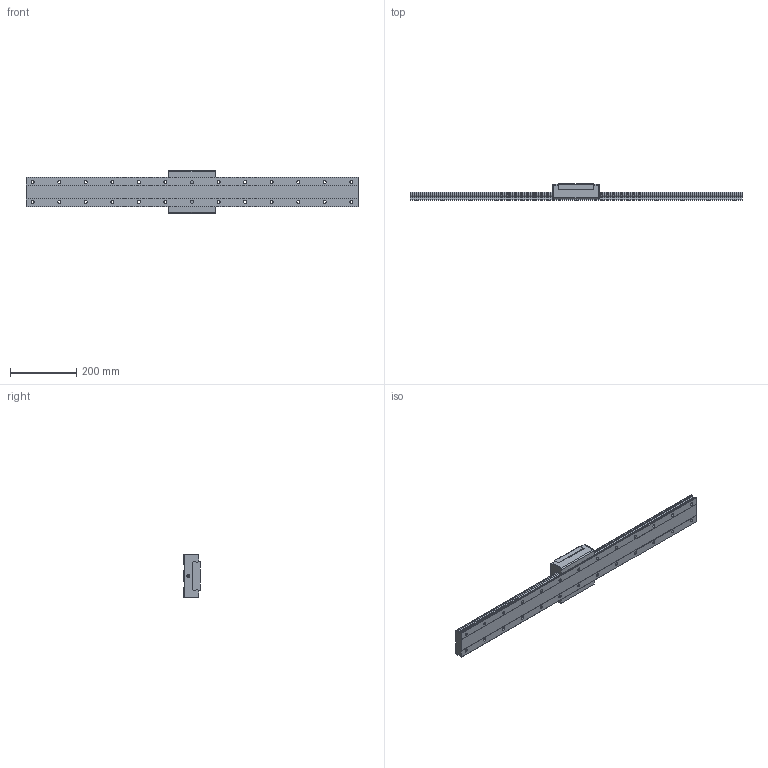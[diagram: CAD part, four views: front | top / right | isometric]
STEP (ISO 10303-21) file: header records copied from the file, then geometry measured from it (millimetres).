
FILE_DESCRIPTION( ( '' ), '1' );
FILE_NAME( 'C:/Users/v3-771-32344/Documents/Website 2016/STEP/SHW50CR1UU1000200429.5000.stp', '2016-11-10T12:46:58', ( '' ), ( '' ), ' ', ' ', ' ' );
FILE_SCHEMA( ( 'CONFIG_CONTROL_DESIGN' ) );
Length unit declared in the file: millimetre
Products named in the file (2): 1; 2
Bounding box: 1000 x 50 x 130 mm (x, y, z)
Volume: 2548008.9 mm3; surface area: 323796.5 mm2
Topology: 2 solids, 2 shells, 292 faces, 754 edges, 484 vertices
Faces by surface type: cylinder 152, plane 104, cone 36
Entity records: 9074 total; most frequent: DIRECTION 1658, CARTESIAN_POINT 1516, ORIENTED_EDGE 1476, EDGE_CURVE 738, AXIS2_PLACEMENT_3D 626, VERTEX_POINT 484, LINE 406, VECTOR 406
